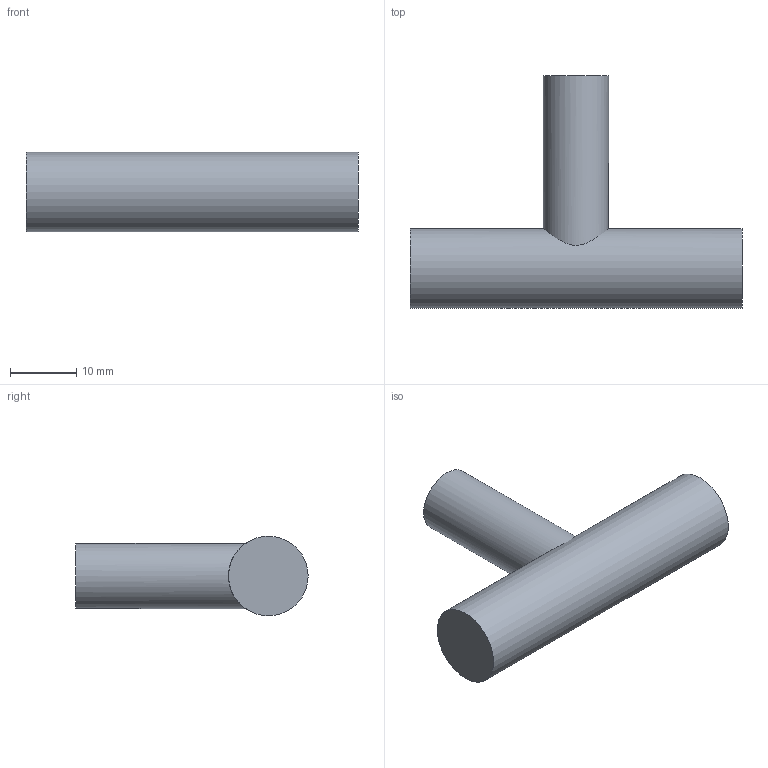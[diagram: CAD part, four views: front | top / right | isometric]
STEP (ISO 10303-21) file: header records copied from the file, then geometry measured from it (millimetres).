
FILE_DESCRIPTION( ( 'STEP AP214' ), '1' );
FILE_NAME( 'C:/Users/kulkarni/Desktop/Apurva/2015/Prodecor_2016/Cadfiles/tian/9208061.stp', ' ', ( ' ' ), ( ' ' ), 'PSStep 15.0.47', 'PARTsolutions', ' ' );
FILE_SCHEMA( ( 'AUTOMOTIVE_DESIGN { 1 0 10303 214 1 1 1 1 }' ) );
Length unit declared in the file: millimetre
Products named in the file (1): _
Bounding box: 50 x 35 x 12 mm (x, y, z)
Volume: 7356.1 mm3; surface area: 2922.2 mm2
Topology: 1 solids, 1 shells, 7 faces, 10 edges, 7 vertices
Faces by surface type: plane 4, cylinder 3
Full cylindrical faces by diameter (mm): 4 x1, 9.8 x1, 12 x1
Entity records: 281 total; most frequent: CARTESIAN_POINT 98, DIRECTION 26, AXIS2_PLACEMENT_3D 13, EDGE_LOOP 12, ORIENTED_EDGE 12, FACE_OUTER_BOUND 10, STYLED_ITEM 7, PRESENTATION_STYLE_ASSIGNMENT 7
